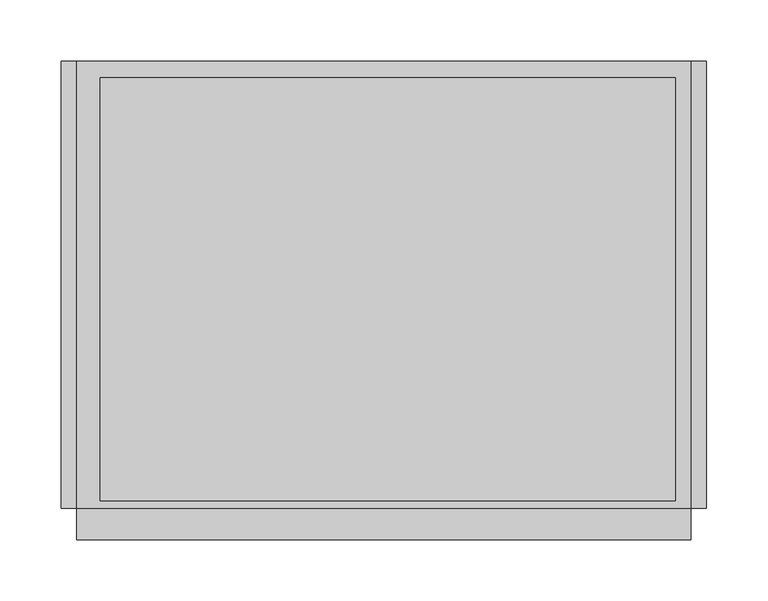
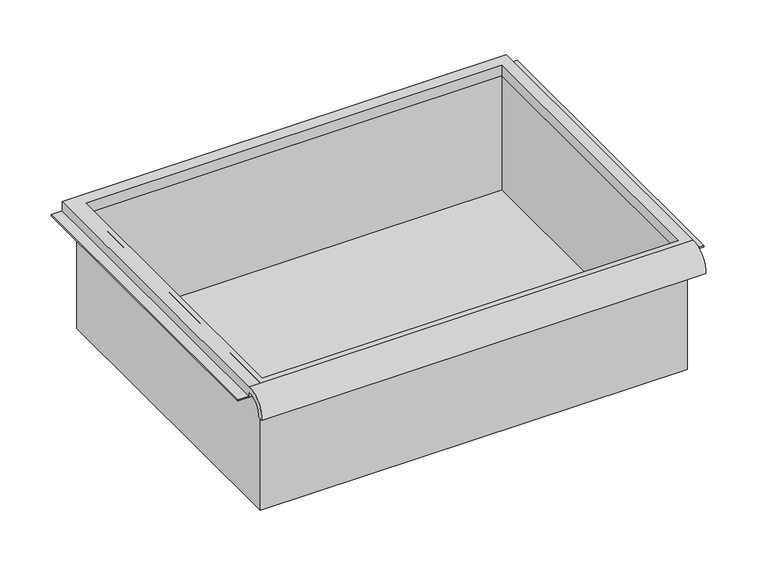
"""IFC4 building model written with IfcOpenShell, lengths in millimetres: furniture geometry."""

from ifc_helpers import new_model, si_unit, frame, origin, place, context, project, spatial, polyline, circle_curve, faceted_brep, source, transform, mapped, element, save
from ifc_brep_helpers import plane_surface, cylinder_surface, revolved_surface, advanced_brep


def furniture_85d6e494(model_context):
    return source(origin(), model_context, "Body", "SolidModel", [
        advanced_brep(
        [(263.7474999, -195.297482, 404.0199118), (263.7474999, -188.9125, 404.0199118), (263.7474999, -169.8625, 422.281385), (263.7474999, -169.8625, 415.9313846), (263.7474999, 195.2625, 415.9313846), (263.7474999, 195.2625, 428.631385), (263.7474999, -169.8625, 428.631385), (-237.9025001, -195.297482, 404.0199118), (-237.9025001, -169.8625, 428.631385), (-237.9025001, 195.2625, 428.631385), (-237.9025001, 195.2625, 415.9313846), (-237.9025001, -169.8625, 415.9313846), (-237.9025001, -169.8625, 422.281385), (-237.9025001, -188.9125, 404.0199118), (251.0474878, 181.9275, 415.9313846), (-218.8095642, 181.9275, 415.9313846), (-218.8095642, -163.5125, 415.9313846), (251.0474878, -163.5125, 415.9313846), (-218.8095642, 181.9275, 428.631385), (251.0474878, 181.9275, 428.631385), (251.0474878, -163.5125, 428.631385), (-218.8095642, -163.5125, 428.631385)],
        [
            (0, 1),
            (1, 2, circle_curve(frame((263.7474999, -172.3404634, 405.7993222), z_axis=(-1.0, 0.0, 0.0), x_axis=(0.0, 1.0, 0.0)), 16.6672942)),
            (2, 3),
            (3, 4),
            (4, 5),
            (5, 6),
            (6, 0, circle_curve(frame((263.7474999, -172.4601678, 405.8672122), z_axis=(1.0, 0.0, 0.0), x_axis=(0.0, 1.0, 0.0)), 22.9119061)),
            (7, 8, circle_curve(frame((-237.9025001, -172.4601678, 405.8672122), z_axis=(-1.0, 0.0, 0.0), x_axis=(0.0, 1.0, 0.0)), 22.9119061)),
            (8, 9),
            (9, 10),
            (10, 11),
            (11, 12),
            (12, 13, circle_curve(frame((-237.9025001, -172.3404634, 405.7993222), z_axis=(1.0, 0.0, 0.0), x_axis=(0.0, 1.0, 0.0)), 16.6672942)),
            (13, 7),
            (0, 7),
            (13, 1),
            (12, 2),
            (11, 3),
            (10, 4),
            (14, 15),
            (15, 16),
            (16, 17),
            (17, 14),
            (9, 5),
            (8, 6),
            (18, 19),
            (19, 20),
            (20, 21),
            (21, 18),
            (14, 19),
            (18, 15),
            (21, 16),
            (20, 17),
        ],
        [
            plane_surface(frame((263.7474999, -195.297482, 404.0199118), z_axis=(1.0, 0.0, 0.0), x_axis=(0.0, 1.0, 0.0))),
            plane_surface(frame((-237.9025001, -195.297482, 404.0199118), z_axis=(-1.0, 0.0, 0.0), x_axis=(0.0, -1.0, 0.0))),
            plane_surface(frame((263.7474999, -195.297482, 404.0199118), z_axis=(0.0, 0.0, -1.0), x_axis=(-1.0, 0.0, 0.0))),
            revolved_surface(polyline([(-237.9025001, -155.67316920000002, 405.7993222), (263.7474999, -155.67316920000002, 405.7993222)]), (-237.9025001, -172.3404634, 405.7993222), (-1.0, 0.0, 0.0)),
            plane_surface(frame((263.7474999, -169.8625, 422.281385), z_axis=(0.0, -1.0, 0.0), x_axis=(-1.0, 0.0, 0.0))),
            plane_surface(frame((263.7474999, -169.8625, 415.9313846), z_axis=(0.0, 0.0, -1.0), x_axis=(-1.0, 0.0, 0.0))),
            plane_surface(frame((263.7474999, 195.2625, 415.9313846), z_axis=(0.0, 1.0, 0.0), x_axis=(-1.0, 0.0, 0.0))),
            plane_surface(frame((263.7474999, 195.2625, 428.631385), z_axis=(0.0, 0.0, 1.0), x_axis=(-1.0, 0.0, 0.0))),
            cylinder_surface(frame((-237.9025001, -172.4601678, 405.8672122), z_axis=(1.0, 0.0, 0.0), x_axis=(0.0, 1.0, 0.0)), 22.9119061),
            plane_surface(frame((251.0474878, 181.9275, 428.631385), z_axis=(0.0, -1.0, 0.0), x_axis=(0.0, 0.0, -1.0))),
            plane_surface(frame((-218.8095642, 181.9275, 428.631385), z_axis=(1.0, 0.0, 0.0), x_axis=(0.0, 0.0, -1.0))),
            plane_surface(frame((-218.8095642, -163.5125, 428.631385), z_axis=(0.0, 1.0, 0.0), x_axis=(0.0, 0.0, -1.0))),
            plane_surface(frame((251.0474878, -163.5125, 428.631385), z_axis=(-1.0, 0.0, 0.0), x_axis=(0.0, 0.0, -1.0))),
        ],
        [
            (0, [[1, 2, 3, 4, 5, 6, 7]]),
            (1, [[8, 9, 10, 11, 12, 13, 14]]),
            (2, [[-1, 15, -14, 16]]),
            (3, [[-2, -16, -13, 17]]),
            (4, [[-3, -17, -12, 18]]),
            (5, [[-4, -18, -11, 19], [20, 21, 22, 23]]),
            (6, [[-5, -19, -10, 24]]),
            (7, [[-6, -24, -9, 25], [26, 27, 28, 29]]),
            (8, [[-7, -25, -8, -15]]),
            (9, [[30, -26, 31, -20]]),
            (10, [[-31, -29, 32, -21]]),
            (11, [[-32, -28, 33, -22]]),
            (12, [[-30, -23, -33, -27]]),
        ],
    ),
        faceted_brep([(-225.2025001, -169.8625, 276.231385), (257.3974878, -169.8625, 276.231385), (257.3974878, -169.8625, 428.631385), (-225.2025001, -169.8625, 428.631385), (-225.2025001, 188.9125, 276.231385), (-225.2025001, 188.9125, 428.631385), (257.3974878, 188.9125, 428.631385), (257.3974878, 188.9125, 276.231385), (-218.8095642, 181.9275, 428.631385), (251.0474878, 181.9275, 428.631385), (251.0474878, -163.5125, 428.631385), (-218.8095642, -163.5125, 428.631385), (251.0474878, 181.9275, 279.406385), (-218.8095642, 181.9275, 279.406385), (-218.8095642, -163.5125, 279.406385), (251.0474878, -163.5125, 279.406385)], [[[0, 1, 2, 3]], [[4, 5, 6, 7]], [[1, 0, 4, 7]], [[2, 1, 7, 6]], [[3, 2, 6, 5], [8, 9, 10, 11]], [[0, 3, 5, 4]], [[12, 13, 14, 15]], [[13, 12, 9, 8]], [[14, 13, 8, 11]], [[15, 14, 11, 10]], [[12, 15, 10, 9]]]),
        faceted_brep([(-250.6025001, 195.2625, 415.9313846), (-250.6025001, 195.2625, 417.5188846), (-231.5525001, 195.2625, 417.5188846), (-231.5525001, 195.2625, 415.9313846), (-250.6025001, -169.8625, 415.9313846), (-231.5525001, -169.8625, 415.9313846), (-231.5525001, -169.8625, 417.5188846), (-250.6025001, -169.8625, 417.5188846)], [[[0, 1, 2, 3]], [[4, 5, 6, 7]], [[1, 0, 4, 7]], [[2, 1, 7, 6]], [[3, 2, 6, 5]], [[0, 3, 5, 4]]]),
        faceted_brep([(276.4474999, 195.2625, 415.9313846), (263.7474999, 195.2625, 415.9313846), (263.7474999, 195.2625, 417.5188846), (276.4474999, 195.2625, 417.5188846), (276.4474999, -169.8625, 415.9313846), (276.4474999, -169.8625, 417.5188846), (263.7474999, -169.8625, 417.5188846), (263.7474999, -169.8625, 415.9313846)], [[[0, 1, 2, 3]], [[4, 5, 6, 7]], [[1, 0, 4, 7]], [[2, 1, 7, 6]], [[3, 2, 6, 5]], [[0, 3, 5, 4]]]),
    ])


if __name__ == "__main__":
    model = new_model("IFC4")
    model_context = context("Model", 3, world=origin())
    ifc_project = project(units=[si_unit("LENGTHUNIT", "METRE", prefix="MILLI")], contexts=[model_context])
    site = spatial("IfcSite", under=ifc_project)
    building = spatial("IfcBuilding", under=site)
    placement = place(None, origin())
    furniture_shape = furniture_85d6e494(model_context)
    element("IfcFurniture", 1, ObjectType="HermanMiller_Carts_CT501_Drawer : 6\"H x 15\"D x 20\"W", at=placement, inside=building, context=model_context, shape_type="MappedRepresentation", body=[
        mapped(furniture_shape, transform((0.0, 0.0, 0.0), x_axis=(1.0, 0.0, 0.0), y_axis=(0.0, 1.0, 0.0), z_axis=(0.0, 0.0, 1.0))),
    ])
    save(model, "model.ifc")
